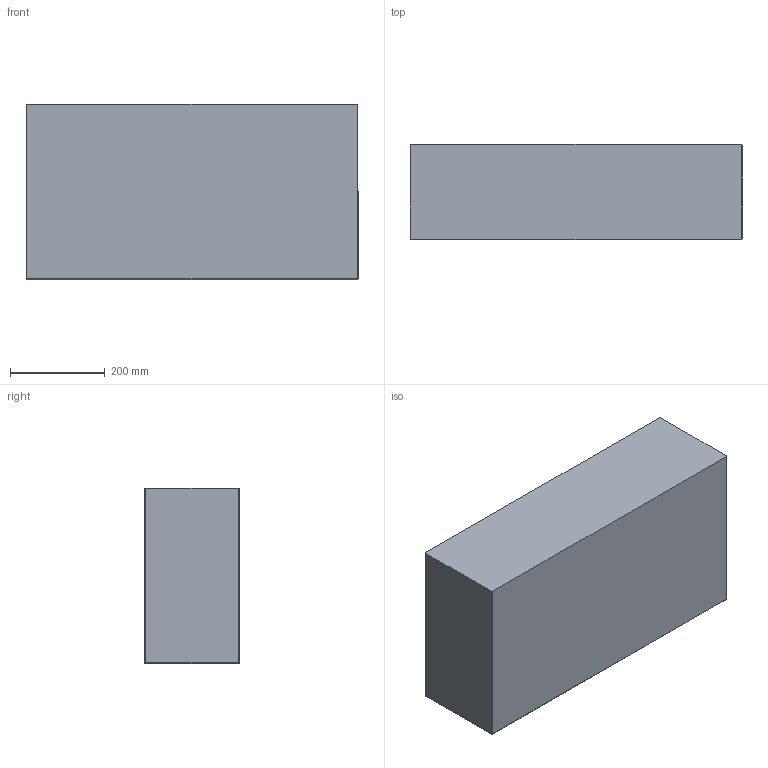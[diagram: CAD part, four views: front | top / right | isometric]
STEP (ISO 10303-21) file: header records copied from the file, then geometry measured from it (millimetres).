
FILE_DESCRIPTION(('CATIA V5 STEP Exchange'),'2;1');
FILE_NAME('C:\Users\Luca\Downloads\mobili next\7537\3D_7537.stp','2023-01-31T14:20:39+00:00',('none'),('none'),'CATIA Version 5 Release 19 SP 5 (IN-10)','CATIA V5 STEP AP214','none');
FILE_SCHEMA(('AUTOMOTIVE_DESIGN { 1 0 10303 214 1 1 1 1 }'));
Length unit declared in the file: millimetre
Products named in the file (1): ART. 7537
Bounding box: 700 x 200 x 370 mm (x, y, z)
Volume: 13943197.6 mm3; surface area: 1503804.8 mm2
Topology: 1 solids, 1 shells, 73 faces, 164 edges, 86 vertices
Faces by surface type: cylinder 28, bspline 20, plane 15, sphere 8, torus 2
Entity records: 3211 total; most frequent: CARTESIAN_POINT 1817, ORIENTED_EDGE 312, DIRECTION 207, EDGE_CURVE 156, AXIS2_PLACEMENT_3D 98, VERTEX_POINT 86, EDGE_LOOP 74, ADVANCED_FACE 73
